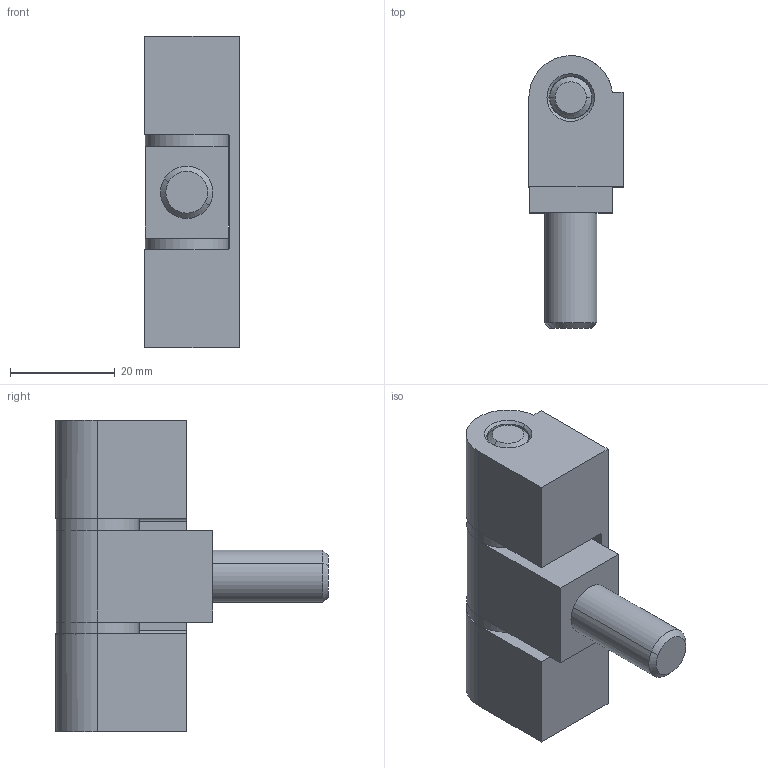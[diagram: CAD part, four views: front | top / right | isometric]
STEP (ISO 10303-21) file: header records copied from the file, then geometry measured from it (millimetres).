
FILE_DESCRIPTION((''),'2;1');
FILE_NAME('CL206-3B_ASM','2016-07-14T',('master'),(''),'PRO/ENGINEER BY PARAMETRIC TECHNOLOGY CORPORATION, 2009060','PRO/ENGINEER BY PARAMETRIC TECHNOLOGY CORPORATION, 2009060','');
FILE_SCHEMA(('CONFIG_CONTROL_DESIGN'));
Length unit declared in the file: millimetre
Products named in the file (7): DINGJIAOLIAN-CL206-3B; ZHUANZHOU-CL206-3B; DIANPIAN-CL206-3B; DONGJIAOLIAN-CL206-3B; M10-LUODING; DONGJIAOLIAN-CL206-3B_ASM; CL206-3B_ASM
Assembly tree (7 placements, depth 3):
  CL206-3B_ASM
    DINGJIAOLIAN-CL206-3B
    ZHUANZHOU-CL206-3B
    DIANPIAN-CL206-3B  x2
    DONGJIAOLIAN-CL206-3B_ASM
      DONGJIAOLIAN-CL206-3B
      M10-LUODING
Bounding box: 18 x 51.99 x 59.5 mm (x, y, z)
Volume: 25219.5 mm3; surface area: 13785.1 mm2
Topology: 6 solids, 6 shells, 248 faces, 674 edges, 444 vertices
Faces by surface type: plane 201, cylinder 29, cone 12, torus 6
Entity records: 8114 total; most frequent: CARTESIAN_POINT 1886, ORIENTED_EDGE 1324, DIRECTION 1208, EDGE_CURVE 662, VERTEX_POINT 436, AXIS2_PLACEMENT_3D 412, VECTOR 384, LINE 384
